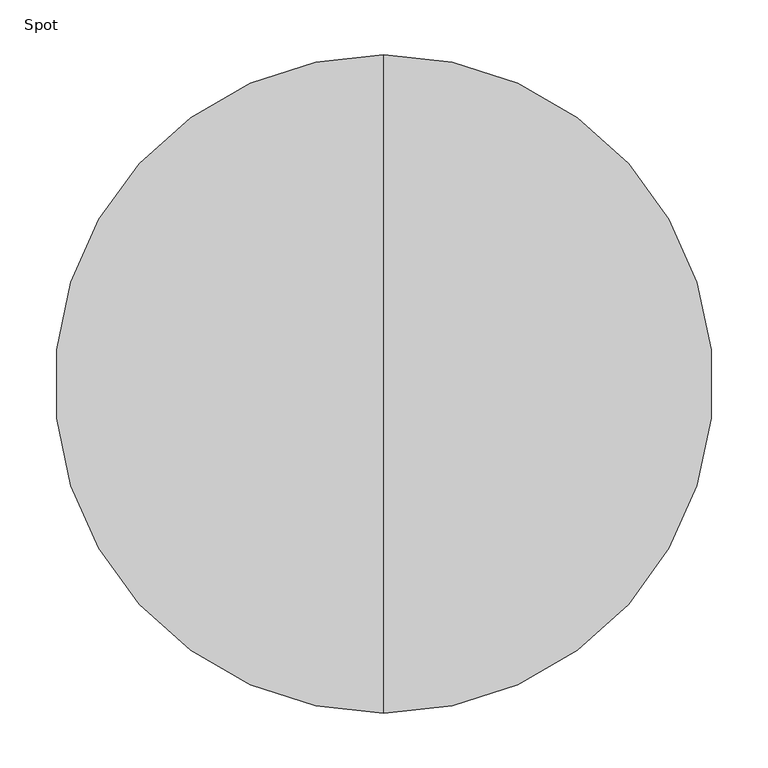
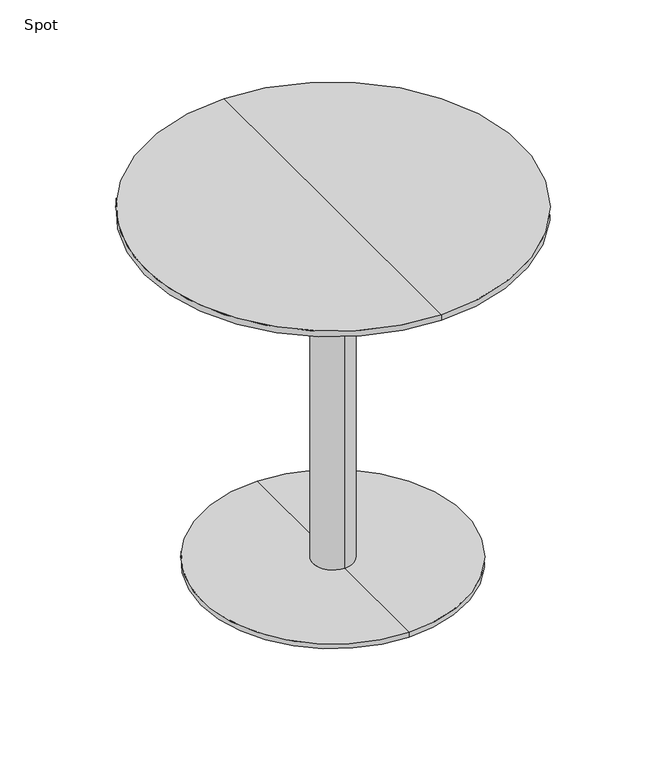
"""IFC4 building model written with IfcOpenShell, lengths in millimetres: furniture geometry, Spot : Bø60x60."""

from ifc_helpers import new_model, si_unit, frame, origin, place, context, project, spatial, polyline, circle_curve, source, transform, mapped, element, save
from ifc_brep_helpers import plane_surface, cylinder_surface, revolved_surface, advanced_brep


def spot_77f59f46(model_context):
    return source(origin(), model_context, "Body", "AdvancedBrep", [
        advanced_brep(
        [(0.0, -300.0, 600.0), (0.0, 300.0, 600.0), (0.0, 0.0, 600.0), (0.0, 300.0, 590.25), (0.0, -300.0, 590.25), (0.0, 0.0, 578.0), (0.0, -254.2823776, 578.0), (0.0, 254.2823776, 578.0)],
        [
            (0, 1, circle_curve(frame((0.0, 0.0, 600.0), z_axis=(0.0, 0.0, 1.0), x_axis=(0.0, -1.0, 0.0)), 300.0)),
            (1, 2),
            (2, 0),
            (3, 4, circle_curve(frame((0.0, 0.0, 590.25), z_axis=(0.0, 0.0, 1.0), x_axis=(0.0, -1.0, 0.0)), 300.0)),
            (4, 0),
            (0, 1, circle_curve(frame((0.0, 0.0, 600.0), z_axis=(0.0, 0.0, -1.0), x_axis=(0.0, -1.0, 0.0)), 300.0)),
            (1, 3),
            (5, 6),
            (6, 7, circle_curve(frame((0.0, 0.0, 578.0), z_axis=(0.0, 0.0, -1.0), x_axis=(0.0, -1.0, 0.0)), 254.2823776)),
            (7, 5),
            (7, 6, circle_curve(frame((0.0, 0.0, 578.0), z_axis=(0.0, 0.0, -1.0), x_axis=(0.0, -1.0, 0.0)), 254.2823776)),
            (4, 3, circle_curve(frame((0.0, 0.0, 590.25), z_axis=(0.0, 0.0, 1.0), x_axis=(0.0, -1.0, 0.0)), 300.0)),
            (6, 4),
            (3, 7),
        ],
        [
            plane_surface(frame((0.0, 0.0, 600.0), z_axis=(0.0, 0.0, 1.0), x_axis=(0.0, -1.0, 0.0))),
            cylinder_surface(frame((0.0, 0.0, 680.0), z_axis=(0.0, 0.0, -1.0), x_axis=(0.0, -1.0, 0.0)), 300.0),
            plane_surface(frame((0.0, 0.0, 578.0), z_axis=(0.0, 0.0, -1.0), x_axis=(0.0, -1.0, 0.0))),
            revolved_surface(polyline([(0.0, -300.0, 590.25), (0.0, -254.2823776, 578.0)]), (0.0, 0.0, 680.0), (0.0, 0.0, -1.0)),
        ],
        [
            (0, [[1, 2, 3]]),
            (1, [[4, 5, 6, 7]]),
            (2, [[8, 9, 10]]),
            (2, [[-10, 11, -8]]),
            (0, [[-6, -3, -2]]),
            (1, [[12, -7, -1, -5]]),
            (3, [[-9, 13, -4, 14]]),
            (3, [[-11, -14, -12, -13]]),
        ],
    ),
        advanced_brep(
        [(0.0, 32.0, 10.0), (0.0, -32.0, 10.0), (0.0, -32.0, 547.406916), (0.0, 32.0, 547.406916), (0.0, 210.0, 10.0), (0.0, -210.0, 10.0), (0.0, 210.0, 2.0), (0.0, -210.0, 2.0), (0.0, 0.0, 2.0), (0.0, 150.0, 578.0), (0.0, -150.0, 578.0), (0.0, 0.0, 578.0), (0.0, 150.0, 566.7213673), (0.0, -150.0, 566.7213673)],
        [
            (0, 1, circle_curve(frame((0.0, 0.0, 10.0), z_axis=(0.0, 0.0, 1.0), x_axis=(0.0, -1.0, 0.0)), 32.0)),
            (1, 2),
            (2, 3, circle_curve(frame((0.0, 0.0, 547.406916), z_axis=(0.0, 0.0, -1.0), x_axis=(0.0, -1.0, 0.0)), 32.0)),
            (3, 0),
            (1, 0, circle_curve(frame((0.0, 0.0, 10.0), z_axis=(0.0, 0.0, 1.0), x_axis=(0.0, -1.0, 0.0)), 32.0)),
            (3, 2, circle_curve(frame((0.0, 0.0, 547.406916), z_axis=(0.0, 0.0, -1.0), x_axis=(0.0, -1.0, 0.0)), 32.0)),
            (4, 5, circle_curve(frame((0.0, 0.0, 10.0), z_axis=(0.0, 0.0, 1.0), x_axis=(0.0, -1.0, 0.0)), 210.0)),
            (5, 1),
            (0, 4),
            (5, 4, circle_curve(frame((0.0, 0.0, 10.0), z_axis=(0.0, 0.0, 1.0), x_axis=(0.0, -1.0, 0.0)), 210.0)),
            (6, 7, circle_curve(frame((0.0, 0.0, 2.0), z_axis=(0.0, 0.0, 1.0), x_axis=(0.0, -1.0, 0.0)), 210.0)),
            (7, 5),
            (4, 6),
            (7, 6, circle_curve(frame((0.0, 0.0, 2.0), z_axis=(0.0, 0.0, 1.0), x_axis=(0.0, -1.0, 0.0)), 210.0)),
            (8, 7),
            (6, 8),
            (9, 10, circle_curve(frame((0.0, 0.0, 578.0), z_axis=(0.0, 0.0, 1.0), x_axis=(0.0, -1.0, 0.0)), 150.0)),
            (10, 11),
            (11, 9),
            (10, 9, circle_curve(frame((0.0, 0.0, 578.0), z_axis=(0.0, 0.0, 1.0), x_axis=(0.0, -1.0, 0.0)), 150.0)),
            (12, 13, circle_curve(frame((0.0, 0.0, 566.7213673), z_axis=(0.0, 0.0, 1.0), x_axis=(0.0, -1.0, 0.0)), 150.0)),
            (13, 10),
            (9, 12),
            (13, 12, circle_curve(frame((0.0, 0.0, 566.7213673), z_axis=(0.0, 0.0, 1.0), x_axis=(0.0, -1.0, 0.0)), 150.0)),
            (2, 13),
            (12, 3),
        ],
        [
            cylinder_surface(frame((0.0, 0.0, 940.0), z_axis=(0.0, 0.0, -1.0), x_axis=(0.0, -1.0, 0.0)), 32.0),
            plane_surface(frame((0.0, 0.0, 10.0), z_axis=(0.0, 0.0, 1.0), x_axis=(0.0, -1.0, 0.0))),
            cylinder_surface(frame((0.0, 0.0, 940.0), z_axis=(0.0, 0.0, -1.0), x_axis=(0.0, -1.0, 0.0)), 210.0),
            plane_surface(frame((0.0, 0.0, 2.0), z_axis=(0.0, 0.0, -1.0), x_axis=(0.0, -1.0, 0.0))),
            plane_surface(frame((0.0, 0.0, 578.0), z_axis=(0.0, 0.0, 1.0), x_axis=(0.0, -1.0, 0.0))),
            cylinder_surface(frame((0.0, 0.0, 940.0), z_axis=(0.0, 0.0, -1.0), x_axis=(0.0, -1.0, 0.0)), 150.0),
            revolved_surface(polyline([(0.0, -150.0, 566.7213673), (0.0, -32.0, 547.406916)]), (0.0, 0.0, 940.0), (0.0, 0.0, -1.0)),
        ],
        [
            (0, [[1, 2, 3, 4]]),
            (0, [[5, -4, 6, -2]]),
            (1, [[7, 8, -1, 9]]),
            (1, [[10, -9, -5, -8]]),
            (2, [[11, 12, -7, 13]]),
            (2, [[14, -13, -10, -12]]),
            (3, [[15, -11, 16]]),
            (3, [[-16, -14, -15]]),
            (4, [[17, 18, 19]]),
            (4, [[20, -19, -18]]),
            (5, [[21, 22, -17, 23]]),
            (5, [[24, -23, -20, -22]]),
            (6, [[-3, 25, -21, 26]]),
            (6, [[-6, -26, -24, -25]]),
        ],
    ),
    ])


if __name__ == "__main__":
    model = new_model("IFC4")
    model_context = context("Model", 3, world=origin())
    ifc_project = project(units=[si_unit("LENGTHUNIT", "METRE", prefix="MILLI")], contexts=[model_context])
    site = spatial("IfcSite", under=ifc_project)
    building = spatial("IfcBuilding", under=site)
    placement = place(None, origin())
    spot_shape = spot_77f59f46(model_context)
    element("IfcFurniture", 1, ObjectType="Spot : Bø60x60", at=placement, inside=building, context=model_context, shape_type="MappedRepresentation", body=[
        mapped(spot_shape, transform((0.0, 0.0, 0.0), x_axis=(1.0, 0.0, 0.0), y_axis=(0.0, 1.0, 0.0), z_axis=(0.0, 0.0, 1.0))),
    ])
    save(model, "model.ifc")
